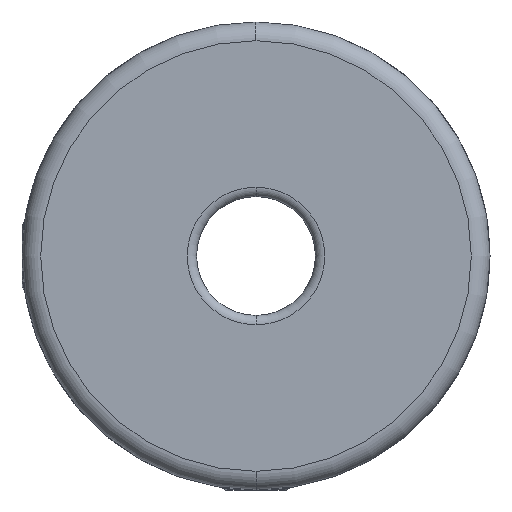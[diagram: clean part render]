
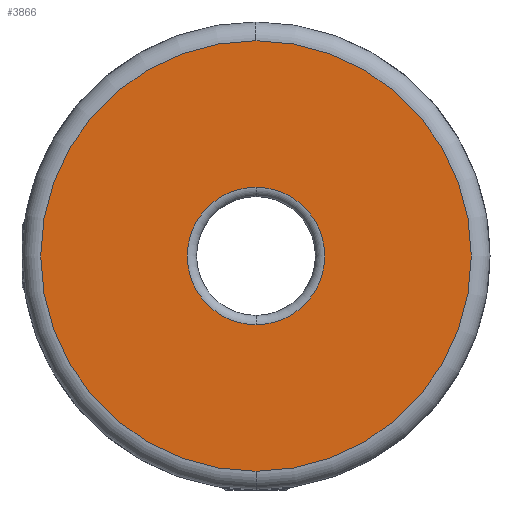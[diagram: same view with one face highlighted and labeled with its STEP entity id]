
A CAD part, left-side view. The second image highlights one B-rep face of the part: STEP entity #3866.
In plain terms, the highlighted planar face has unit normal (-1, 0, 0).
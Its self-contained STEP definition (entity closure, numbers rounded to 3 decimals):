
#203 = CARTESIAN_POINT ( 'NONE',  ( -15.5, 0., 0. ) ) ;
#234 = CARTESIAN_POINT ( 'NONE',  ( -15.5, 0., 11.5 ) ) ;
#311 = EDGE_CURVE ( 'NONE', #2423, #1333, #372, .T. ) ;
#327 = EDGE_CURVE ( 'NONE', #3875, #1612, #4407, .T. ) ;
#372 = CIRCLE ( 'NONE', #4196, 3.675 ) ;
#517 = DIRECTION ( 'NONE',  ( 0., 0., -1. ) ) ;
#545 = EDGE_CURVE ( 'NONE', #1612, #3875, #3340, .T. ) ;
#564 = EDGE_CURVE ( 'NONE', #1333, #2423, #779, .T. ) ;
#638 = ORIENTED_EDGE ( 'NONE', *, *, #545, .T. ) ;
#690 = CARTESIAN_POINT ( 'NONE',  ( -15.5, 0., 3.675 ) ) ;
#779 = CIRCLE ( 'NONE', #1830, 3.675 ) ;
#869 = DIRECTION ( 'NONE',  ( 1., 0., 0. ) ) ;
#1130 = AXIS2_PLACEMENT_3D ( 'NONE', #1483, #2075, #517 ) ;
#1174 = EDGE_LOOP ( 'NONE', ( #1329, #2700 ) ) ;
#1329 = ORIENTED_EDGE ( 'NONE', *, *, #311, .T. ) ;
#1333 = VERTEX_POINT ( 'NONE', #690 ) ;
#1434 = ORIENTED_EDGE ( 'NONE', *, *, #327, .T. ) ;
#1483 = CARTESIAN_POINT ( 'NONE',  ( -15.5, 0., 0. ) ) ;
#1497 = CARTESIAN_POINT ( 'NONE',  ( -15.5, 0., 0. ) ) ;
#1531 = DIRECTION ( 'NONE',  ( 1., 0., 0. ) ) ;
#1612 = VERTEX_POINT ( 'NONE', #4279 ) ;
#1680 = CARTESIAN_POINT ( 'NONE',  ( -15.5, 0., -3.675 ) ) ;
#1809 = EDGE_LOOP ( 'NONE', ( #638, #1434 ) ) ;
#1830 = AXIS2_PLACEMENT_3D ( 'NONE', #203, #1531, #3179 ) ;
#1875 = DIRECTION ( 'NONE',  ( 0., 0., -1. ) ) ;
#2075 = DIRECTION ( 'NONE',  ( -1., 0., 0. ) ) ;
#2170 = AXIS2_PLACEMENT_3D ( 'NONE', #1497, #4285, #3936 ) ;
#2174 = DIRECTION ( 'NONE',  ( 1., 0., 0. ) ) ;
#2185 = CARTESIAN_POINT ( 'NONE',  ( -15.5, 0., 0. ) ) ;
#2423 = VERTEX_POINT ( 'NONE', #1680 ) ;
#2476 = CARTESIAN_POINT ( 'NONE',  ( -15.5, 0., 0. ) ) ;
#2647 = FACE_OUTER_BOUND ( 'NONE', #1809, .T. ) ;
#2672 = FACE_BOUND ( 'NONE', #1174, .T. ) ;
#2700 = ORIENTED_EDGE ( 'NONE', *, *, #564, .T. ) ;
#3179 = DIRECTION ( 'NONE',  ( 0., 0., -1. ) ) ;
#3207 = DIRECTION ( 'NONE',  ( 0., 0., -1. ) ) ;
#3340 = CIRCLE ( 'NONE', #2170, 11.5 ) ;
#3866 = ADVANCED_FACE ( 'NONE', ( #2672, #2647 ), #4307, .F. ) ;
#3875 = VERTEX_POINT ( 'NONE', #234 ) ;
#3936 = DIRECTION ( 'NONE',  ( 0., 0., -1. ) ) ;
#4196 = AXIS2_PLACEMENT_3D ( 'NONE', #2185, #2174, #1875 ) ;
#4279 = CARTESIAN_POINT ( 'NONE',  ( -15.5, 0., -11.5 ) ) ;
#4285 = DIRECTION ( 'NONE',  ( -1., 0., 0. ) ) ;
#4293 = AXIS2_PLACEMENT_3D ( 'NONE', #2476, #869, #3207 ) ;
#4307 = PLANE ( 'NONE',  #4293 ) ;
#4407 = CIRCLE ( 'NONE', #1130, 11.5 ) ;
